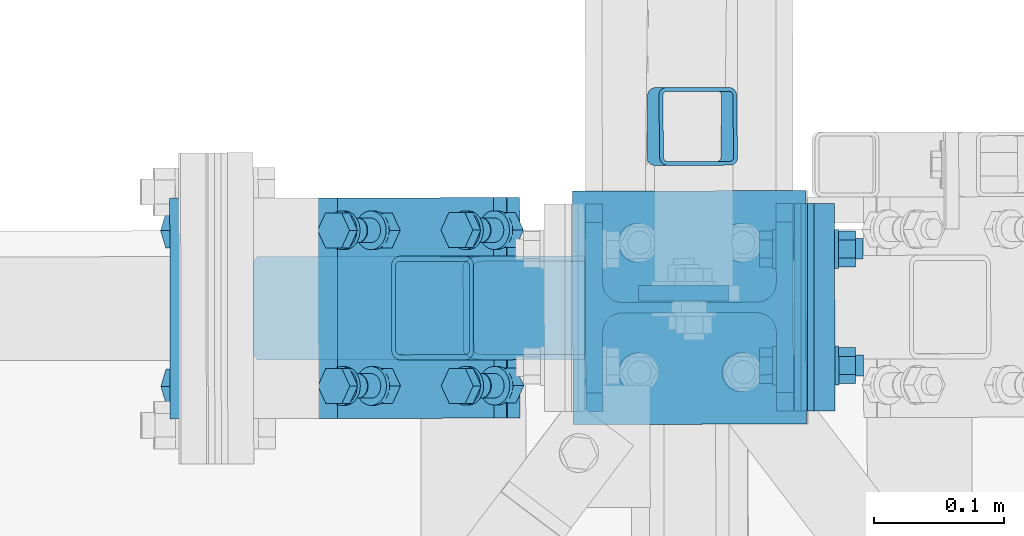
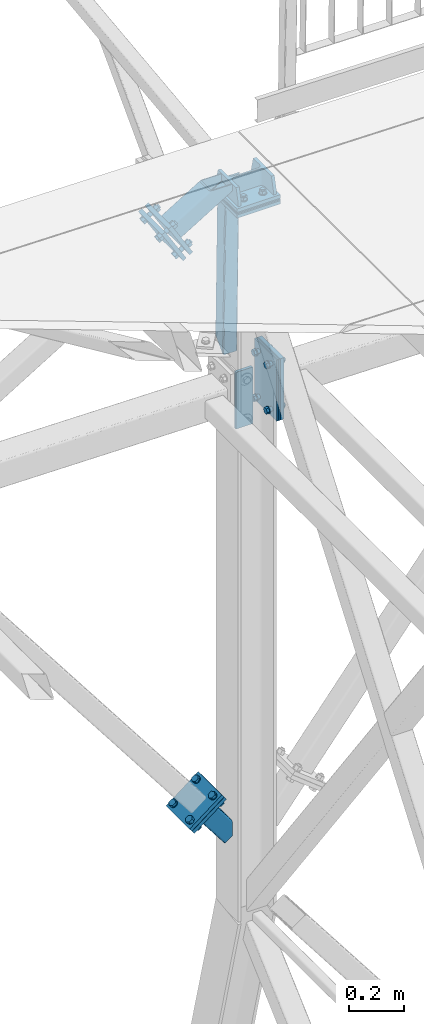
# One storey, part 106 of 169: 17 discrete accessories, 4 mechanical fasteners, 12 elements without a shape of their own.
"""IFC2X3 building model written with IfcOpenShell, lengths in millimetres."""

import ifcopenshell
import ifcopenshell.guid

model = None  # the IFC model being written
_history = None  # IfcOwnerHistory: only IFC2X3 demands one
_inside = {}  # id of a spatial element -> (the spatial element, [elements in it])
_under = {}  # id of a project, library or spatial element -> (it, [spatial elements below it])
_declared = {}  # id of a project -> (the project, [libraries it declares])
_typed = {}  # id of a type object -> (the type object, [elements of that type])
_made_of = {}  # id of a material, layer set ... -> (it, [elements and type objects made of it])


def new_model(schema):
    """Start an empty IFC model of exactly this schema.

    Asked for "IFC4X3", IfcOpenShell would pick the latest addendum, in which some entities
    have other attributes; the version numbers below select the first issue.
    IFC2X3 requires an IfcOwnerHistory on every rooted entity: one is made here for all.
    """
    global model, _history
    if schema == "IFC4X3":
        model = ifcopenshell.file(schema_version=(4, 3, 0, 0))
    else:
        model = ifcopenshell.file(schema=schema)
    _inside.clear()
    _under.clear()
    _declared.clear()
    _typed.clear()
    _made_of.clear()
    _history = None
    if model.schema == "IFC2X3":
        org = make("IfcOrganization", Name="unknown")
        user = make(
            "IfcPersonAndOrganization",
            ThePerson=make("IfcPerson", FamilyName="unknown"),
            TheOrganization=org,
        )
        app = make(
            "IfcApplication",
            ApplicationDeveloper=org,
            Version="unknown",
            ApplicationFullName="unknown",
            ApplicationIdentifier="unknown",
        )
        _history = make(
            "IfcOwnerHistory",
            OwningUser=user,
            OwningApplication=app,
            ChangeAction="ADDED",
            CreationDate=0,
        )
    return model


def make(cls, **values):
    """One entity of the class cls with the attributes given. An attribute that is None is left unset."""
    return model.create_entity(
        cls, **{name: value for name, value in values.items() if value is not None}
    )


def rooted(cls, **values):
    """An entity with a GlobalId (a new one), such as an element, a storey or a relation."""
    return make(cls, GlobalId=ifcopenshell.guid.new(), OwnerHistory=_history, **values)


def si_unit(unit_type, name, prefix=None):
    """IfcSIUnit, for example si_unit("LENGTHUNIT", "METRE", prefix="MILLI")."""
    return make("IfcSIUnit", UnitType=unit_type, Prefix=prefix, Name=name)


def assignment(units):
    """IfcUnitAssignment: the units of a project."""
    return None if units is None else make("IfcUnitAssignment", Units=units)


def point(xyz):
    """IfcCartesianPoint."""
    return None if xyz is None else make("IfcCartesianPoint", Coordinates=xyz)


def direction(xyz):
    """IfcDirection."""
    return None if xyz is None else make("IfcDirection", DirectionRatios=xyz)


def frame(location, z_axis=None, x_axis=None):
    """IfcAxis2Placement3D, a coordinate frame: its origin and axes. An axis left out is left unset."""
    return make(
        "IfcAxis2Placement3D",
        Location=point(location),
        Axis=direction(z_axis),
        RefDirection=direction(x_axis),
    )


def frame_2d(location, x_axis=None):
    """IfcAxis2Placement2D, a coordinate frame in the plane: its origin and x axis."""
    return make(
        "IfcAxis2Placement2D", Location=point(location), RefDirection=direction(x_axis)
    )


def origin_with_axes():
    """The frame at (0, 0, 0) with the z axis (0, 0, 1) and the x axis (1, 0, 0) written out."""
    return frame((0.0, 0.0, 0.0), z_axis=(0.0, 0.0, 1.0), x_axis=(1.0, 0.0, 0.0))


def origin_2d_with_axis():
    """The frame at (0, 0) in the plane with the x axis (1, 0) written out."""
    return frame_2d((0.0, 0.0), x_axis=(1.0, 0.0))


def place(relative_to, where):
    """IfcLocalPlacement: puts the frame where relative to a parent placement (None: the world)."""
    return make(
        "IfcLocalPlacement", PlacementRelTo=relative_to, RelativePlacement=where
    )


def context(
    kind, dimensions, precision=None, world=None, true_north=None, identifier=None
):
    """IfcGeometricRepresentationContext, for example the 3D "Model" context."""
    return make(
        "IfcGeometricRepresentationContext",
        ContextIdentifier=identifier,
        ContextType=kind,
        CoordinateSpaceDimension=dimensions,
        Precision=precision,
        WorldCoordinateSystem=world,
        TrueNorth=true_north,
    )


def subcontext(parent, identifier, kind, view, scale=None):
    """IfcGeometricRepresentationSubContext, for example "Body" below "Model"."""
    return make(
        "IfcGeometricRepresentationSubContext",
        ContextIdentifier=identifier,
        ContextType=kind,
        ParentContext=parent,
        TargetScale=scale,
        TargetView=view,
    )


def project(units=None, contexts=None):
    """IfcProject with its units and contexts."""
    return rooted(
        "IfcProject",
        Name="project",
        RepresentationContexts=contexts,
        UnitsInContext=assignment(units),
    )


def spatial(cls, under=None, at=None, **own):
    """A site, building, storey or space (cls), placed at a placement, below another one or the project."""
    s = rooted(cls, ObjectPlacement=at, **own)
    if under is not None:
        _under.setdefault(under.id(), (under, []))[1].append(s)
    return s


def polyline(points):
    """IfcPolyline through the points."""
    return make("IfcPolyline", Points=[point(p) for p in points])


def profile(cls, at=None, kind="AREA", **sizes):
    """A parametric profile (cls). Its sizes go by their IFC names, for example OverallWidth=200.0."""
    return make(cls, ProfileType=kind, Position=at, **sizes)


def rectangle(**sizes):
    """IfcRectangleProfileDef."""
    return profile("IfcRectangleProfileDef", **sizes)


def hollow_rectangle(**sizes):
    """IfcRectangleHollowProfileDef."""
    return profile("IfcRectangleHollowProfileDef", **sizes)


def circle(**sizes):
    """IfcCircleProfileDef."""
    return profile("IfcCircleProfileDef", **sizes)


def i_section(**sizes):
    """IfcIShapeProfileDef."""
    return profile("IfcIShapeProfileDef", **sizes)


def outline(outer, holes=None, kind="AREA"):
    """IfcArbitraryClosedProfileDef: a profile drawn as a closed curve; with holes, ...WithVoids."""
    if holes is None:
        return make("IfcArbitraryClosedProfileDef", ProfileType=kind, OuterCurve=outer)
    return make(
        "IfcArbitraryProfileDefWithVoids",
        ProfileType=kind,
        OuterCurve=outer,
        InnerCurves=holes,
    )


def extrude(swept, where, along, depth):
    """IfcExtrudedAreaSolid: the profile swept, set in the frame where, extruded along a direction by depth."""
    return make(
        "IfcExtrudedAreaSolid",
        SweptArea=swept,
        Position=where,
        ExtrudedDirection=direction(along),
        Depth=depth,
    )


def boolean(op, a, b):
    """IfcBooleanResult of two solids."""
    return make("IfcBooleanResult", Operator=op, FirstOperand=a, SecondOperand=b)


def clip(a, b, op="DIFFERENCE"):
    """IfcBooleanClippingResult: the solid a cut by the half space b."""
    return make(
        "IfcBooleanClippingResult", Operator=op, FirstOperand=a, SecondOperand=b
    )


def halfspace(plane, agree):
    """IfcHalfSpaceSolid: all space on one side of the plane z = 0 of the frame plane."""
    return make(
        "IfcHalfSpaceSolid",
        BaseSurface=make("IfcPlane", Position=plane),
        AgreementFlag=agree,
    )


def shape(context_of_items, identifier, shape_type, items):
    """IfcShapeRepresentation: the items that make up one representation, for example the "Body"."""
    return make(
        "IfcShapeRepresentation",
        ContextOfItems=context_of_items,
        RepresentationIdentifier=identifier,
        RepresentationType=shape_type,
        Items=items,
    )


def source(mapping_origin, context_of_items, identifier, shape_type, items):
    """IfcRepresentationMap: a shape defined once, which mapped items show again and again."""
    return make(
        "IfcRepresentationMap",
        MappingOrigin=mapping_origin,
        MappedRepresentation=shape(context_of_items, identifier, shape_type, items),
    )


def transform(
    local_origin,
    x_axis=None,
    y_axis=None,
    z_axis=None,
    scale=None,
    scale2=None,
    scale3=None,
    uniform=True,
):
    """IfcCartesianTransformationOperator3D, or its non-uniform kind. x_axis, y_axis, z_axis: its Axis1, 2, 3."""
    if uniform:
        return make(
            "IfcCartesianTransformationOperator3D",
            Axis1=direction(x_axis),
            Axis2=direction(y_axis),
            LocalOrigin=point(local_origin),
            Scale=scale,
            Axis3=direction(z_axis),
        )
    return make(
        "IfcCartesianTransformationOperator3DnonUniform",
        Axis1=direction(x_axis),
        Axis2=direction(y_axis),
        LocalOrigin=point(local_origin),
        Scale=scale,
        Axis3=direction(z_axis),
        Scale2=scale2,
        Scale3=scale3,
    )


def mapped(mapping_source, mapping_target):
    """IfcMappedItem: shows the shape of a source again, moved by a transform."""
    return make(
        "IfcMappedItem", MappingSource=mapping_source, MappingTarget=mapping_target
    )


def material(Name=None, Category=None):
    """IfcMaterial."""
    return make("IfcMaterial", Name=Name, Category=Category)


def made_of(thing, what):
    """Note that an element or type object is made of a material, layer set ...; save() writes the relation."""
    if what is not None:
        _made_of.setdefault(what.id(), (what, []))[1].append(thing)
    return thing


def type_object(cls, material=None, **own):
    """A type object (cls), such as IfcWallType, which elements share."""
    return made_of(rooted(cls, **own), material)


def element(
    cls,
    number,
    at=None,
    inside=None,
    cuts=None,
    type_object=None,
    material=None,
    context=None,
    identifier="Body",
    shape_type=None,
    held_by="IfcProductDefinitionShape",
    body=None,
    shapes=None,
    **own,
):
    """One element of the class cls, such as IfcWall. Its Tag is "e" and its number.

    at: its placement. inside: the storey or other place that contains it. cuts: it is an
    opening in that element (IfcRelVoidsElement). A single representation is given by context,
    identifier, shape_type and body (its items); several are given by shapes. held_by: the class
    of the entity that holds the representations. save() writes the other relations.
    """
    e = rooted(cls, Tag="e%d" % number, ObjectPlacement=at, **own)
    if body is not None:
        shapes = [shape(context, identifier, shape_type, body)]
    if shapes is not None:
        e.Representation = make(held_by, Representations=shapes)
    if inside is not None:
        _inside.setdefault(inside.id(), (inside, []))[1].append(e)
    if cuts is not None:
        rooted(
            "IfcRelVoidsElement", RelatingBuildingElement=cuts, RelatedOpeningElement=e
        )
    if type_object is not None:
        _typed.setdefault(type_object.id(), (type_object, []))[1].append(e)
    return made_of(e, material)


def aggregate(whole, parts):
    """IfcRelAggregates: a whole, such as a stair, and the parts it consists of."""
    return rooted("IfcRelAggregates", RelatingObject=whole, RelatedObjects=parts)


def save(model, path):
    """Write the relations noted so far, then the file.

    IfcRelAggregates (storeys below a building ...), IfcRelContainedInSpatialStructure (elements
    in a storey), IfcRelDefinesByType, IfcRelAssociatesMaterial and IfcRelDeclares: one each for
    every whole, place, type object, material and project.
    """
    for whole, parts in _under.values():
        aggregate(whole, parts)
    for where, things in _inside.values():
        rooted(
            "IfcRelContainedInSpatialStructure",
            RelatedElements=things,
            RelatingStructure=where,
        )
    for kind, things in _typed.values():
        rooted("IfcRelDefinesByType", RelatedObjects=things, RelatingType=kind)
    for what, things in _made_of.values():
        rooted("IfcRelAssociatesMaterial", RelatedObjects=things, RelatingMaterial=what)
    for by, libraries in _declared.values():
        rooted("IfcRelDeclares", RelatingContext=by, RelatedDefinitions=libraries)
    model.write(path)


model = new_model("IFC2X3")

# Units and contexts
model_context = context("Model", 3, precision=1e-05, world=origin_with_axes())
body_context = subcontext(model_context, "Body", "Model", "MODEL_VIEW")
ifc_project = project(units=[si_unit("LENGTHUNIT", "METRE", prefix="MILLI"), si_unit("AREAUNIT", "SQUARE_METRE"), si_unit("VOLUMEUNIT", "CUBIC_METRE"), si_unit("MASSUNIT", "GRAM", prefix="KILO"), si_unit("TIMEUNIT", "SECOND"), si_unit("PLANEANGLEUNIT", "RADIAN"), si_unit("SOLIDANGLEUNIT", "STERADIAN"), si_unit("THERMODYNAMICTEMPERATUREUNIT", "DEGREE_CELSIUS"), si_unit("LUMINOUSINTENSITYUNIT", "LUMEN")], contexts=[model_context])

# Site, building, storey
site_placement = place(None, origin_with_axes())
site = spatial("IfcSite", under=ifc_project, at=site_placement, Name="Undefined", CompositionType="ELEMENT")
building_placement = place(site_placement, origin_with_axes())
building = spatial("IfcBuilding", under=site, at=building_placement, Name="Undefined", CompositionType="ELEMENT")
storey_placement = place(building_placement, origin_with_axes())
storey = spatial("IfcBuildingStorey", under=building, at=storey_placement, Name="Undefined", CompositionType="ELEMENT", Elevation=0.0)

# Assembly, discrete accessory
assembly_1_placement = place(storey_placement, origin_with_axes())
assembly_1 = element("IfcElementAssembly", 1, at=assembly_1_placement, inside=storey, Name="Steel Assembly", AssemblyPlace="NOTDEFINED", PredefinedType="RIGID_FRAME")
ifc_material_1 = material(Name="STEEL/S355")
discrete_accessory_type_1 = type_object("IfcDiscreteAccessoryType", Name="BLACHA")
discrete_accessory_1_placement = place(assembly_1_placement, frame((6114.91558262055, 2267.42133492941, 12945.9381851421), z_axis=(-0.0018648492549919, 0.999998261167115, -4.2996762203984e-08), x_axis=(-2.54700353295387e-10, 0.0, -1.0)))
discrete_accessory_1 = element("IfcDiscreteAccessory", 2, at=discrete_accessory_1_placement, type_object=discrete_accessory_type_1, material=ifc_material_1, Name="BLACHA", ObjectType="BL12*70", context=body_context, shape_type="SweptSolid", body=[
    extrude(outline(polyline([(250.000000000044, 34.9999999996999), (249.999999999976, -35.0000000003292), (-3.45607986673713e-11, -35.0000000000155), (3.27418092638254e-11, 35.0000000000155), (250.000000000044, 34.9999999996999)])), frame((-1.81898942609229e-12, -1.81898940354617e-12, -5.99999999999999), z_axis=(0.0, 0.0, 1.0), x_axis=(1.0, 0.0, 0.0)), (0.0, 0.0, 1.0), 12.0),
])

assembly_2_placement = place(storey_placement, origin_with_axes())
assembly_2 = element("IfcElementAssembly", 3, at=assembly_2_placement, inside=storey, Name="Steel Assembly", AssemblyPlace="NOTDEFINED", PredefinedType="RIGID_FRAME")
discrete_accessory_2_placement = place(assembly_2_placement, frame((6209.2309636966, 2256.59861700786, 13733.2664487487), z_axis=(0.0, 0.0, 1.0), x_axis=(-0.99999826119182, -0.00186483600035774, -1.66000011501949e-07)))
discrete_accessory_2 = element("IfcDiscreteAccessory", 4, at=discrete_accessory_2_placement, type_object=discrete_accessory_type_1, material=ifc_material_1, Name="BLACHA", ObjectType="BL15*180", context=body_context, shape_type="SweptSolid", body=[
    extrude(outline(polyline([(179.999999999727, -90.0000000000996), (6.18456397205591e-11, -90.0), (-6.3664629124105e-11, 90.0000000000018), (179.999999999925, 89.9999999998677), (179.999999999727, -90.0000000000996)])), frame((0.0, -1.24077091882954e-23, -7.49999999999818), z_axis=(0.0, 0.0, 1.0), x_axis=(1.0, 0.0, 0.0)), (0.0, 0.0, 1.0), 15.0),
])

assembly_3_placement = place(storey_placement, origin_with_axes())
assembly_3 = element("IfcElementAssembly", 5, at=assembly_3_placement, inside=storey, Name="Steel Assembly", AssemblyPlace="NOTDEFINED", PredefinedType="RIGID_FRAME")
discrete_accessory_3_placement = place(assembly_3_placement, frame((6209.2944123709, 2256.59730547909, 13707.2664487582), z_axis=(0.0, 0.0, 1.0), x_axis=(-0.99999826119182, -0.00186483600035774, -1.66000011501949e-07)))
discrete_accessory_3 = element("IfcDiscreteAccessory", 6, at=discrete_accessory_3_placement, type_object=discrete_accessory_type_1, material=ifc_material_1, Name="BLACHA", ObjectType="BL15*180", context=body_context, shape_type="SweptSolid", body=[
    extrude(outline(polyline([(179.999999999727, -90.0000000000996), (6.18456397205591e-11, -90.0), (-6.3664629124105e-11, 90.0000000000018), (179.999999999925, 89.9999999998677), (179.999999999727, -90.0000000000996)])), frame((0.0, -1.24077091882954e-23, -7.49999999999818), z_axis=(0.0, 0.0, 1.0), x_axis=(1.0, 0.0, 0.0)), (0.0, 0.0, 1.0), 15.0),
])
aggregate(assembly_3, [discrete_accessory_3])

assembly_4_placement = place(storey_placement, origin_with_axes())
assembly_4 = element("IfcElementAssembly", 7, at=assembly_4_placement, inside=storey, Name="Steel Assembly", AssemblyPlace="NOTDEFINED", PredefinedType="RIGID_FRAME")
discrete_accessory_4_placement = place(assembly_4_placement, frame((6209.23096611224, 2256.59861720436, 13717.2664487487), z_axis=(0.0, 0.0, 1.0), x_axis=(-0.99999826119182, -0.00186483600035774, -1.66000011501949e-07)))
discrete_accessory_4 = element("IfcDiscreteAccessory", 8, at=discrete_accessory_4_placement, type_object=discrete_accessory_type_1, material=ifc_material_1, Name="BLACHA", ObjectType="BL5*180", context=body_context, shape_type="SweptSolid", body=[
    extrude(outline(polyline([(179.999999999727, -90.0000000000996), (6.18456397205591e-11, -90.0), (-6.3664629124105e-11, 90.0000000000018), (179.999999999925, 89.9999999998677), (179.999999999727, -90.0000000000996)])), frame((6.80888809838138e-19, -2.87858853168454e-21, -2.49999999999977), z_axis=(0.0, 0.0, 1.0), x_axis=(1.0, 0.0, 0.0)), (0.0, 0.0, 1.0), 5.0),
])
aggregate(assembly_4, [discrete_accessory_4])

assembly_5_placement = place(storey_placement, origin_with_axes())
assembly_5 = element("IfcElementAssembly", 9, at=assembly_5_placement, inside=storey, Name="Steel Assembly", AssemblyPlace="NOTDEFINED", PredefinedType="RIGID_FRAME")
discrete_accessory_5_placement = place(assembly_5_placement, frame((6209.23096535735, 2256.59861714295, 13722.2664487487), z_axis=(0.0, 0.0, 1.0), x_axis=(-0.99999826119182, -0.00186483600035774, -1.66000011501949e-07)))
discrete_accessory_5 = element("IfcDiscreteAccessory", 10, at=discrete_accessory_5_placement, type_object=discrete_accessory_type_1, material=ifc_material_1, Name="BLACHA", ObjectType="BL5*180", context=body_context, shape_type="SweptSolid", body=[
    extrude(outline(polyline([(179.999999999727, -90.0000000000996), (6.18456397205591e-11, -90.0), (-6.3664629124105e-11, 90.0000000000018), (179.999999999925, 89.9999999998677), (179.999999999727, -90.0000000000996)])), frame((6.80888809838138e-19, -2.87858853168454e-21, -2.49999999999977), z_axis=(0.0, 0.0, 1.0), x_axis=(1.0, 0.0, 0.0)), (0.0, 0.0, 1.0), 5.0),
])
aggregate(assembly_5, [discrete_accessory_5])

assembly_6_placement = place(storey_placement, origin_with_axes())
assembly_6 = element("IfcElementAssembly", 11, at=assembly_6_placement, inside=storey, Name="Steel Assembly", AssemblyPlace="NOTDEFINED", PredefinedType="RIGID_FRAME")
discrete_accessory_6_placement = place(assembly_6_placement, frame((6202.6452661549, 2336.58508302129, 12874.9150526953), z_axis=(0.99999826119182, 0.0018648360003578, 1.65999988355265e-07), x_axis=(0.00186484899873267, -0.999998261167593, 4.28757666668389e-08)))
discrete_accessory_6 = element("IfcDiscreteAccessory", 12, at=discrete_accessory_6_placement, type_object=discrete_accessory_type_1, material=ifc_material_1, Name="BLACHA", ObjectType="BL5*270", context=body_context, shape_type="SweptSolid", body=[
    extrude(outline(polyline([(1.22781784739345e-10, 135.000000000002), (159.999999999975, 134.999999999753), (159.99999999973, -135.000000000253), (-1.23236532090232e-10, -135.000000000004), (1.22781784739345e-10, 135.000000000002)])), frame((6.80888809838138e-19, -2.87858853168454e-21, -2.49999999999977), z_axis=(0.0, 0.0, 1.0), x_axis=(1.0, 0.0, 0.0)), (0.0, 0.0, 1.0), 5.0),
])
aggregate(assembly_6, [discrete_accessory_6])

assembly_7_placement = place(storey_placement, origin_with_axes())
assembly_7 = element("IfcElementAssembly", 13, at=assembly_7_placement, inside=storey, Name="Steel Assembly", AssemblyPlace="NOTDEFINED", PredefinedType="RIGID_FRAME")
discrete_accessory_7_placement = place(assembly_7_placement, frame((6207.64525746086, 2336.59440720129, 12874.9150535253), z_axis=(0.99999826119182, 0.0018648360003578, 1.65999988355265e-07), x_axis=(0.00186484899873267, -0.999998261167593, 4.28757666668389e-08)))
discrete_accessory_7 = element("IfcDiscreteAccessory", 14, at=discrete_accessory_7_placement, type_object=discrete_accessory_type_1, material=ifc_material_1, Name="BLACHA", ObjectType="BL5*270", context=body_context, shape_type="SweptSolid", body=[
    extrude(outline(polyline([(1.22781784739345e-10, 135.000000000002), (159.999999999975, 134.999999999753), (159.99999999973, -135.000000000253), (-1.23236532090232e-10, -135.000000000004), (1.22781784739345e-10, 135.000000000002)])), frame((6.80888809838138e-19, -2.87858853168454e-21, -2.49999999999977), z_axis=(0.0, 0.0, 1.0), x_axis=(1.0, 0.0, 0.0)), (0.0, 0.0, 1.0), 5.0),
])
aggregate(assembly_7, [discrete_accessory_7])

assembly_8_placement = place(storey_placement, origin_with_axes())
assembly_8 = element("IfcElementAssembly", 15, at=assembly_8_placement, inside=storey, Name="Steel Assembly", AssemblyPlace="NOTDEFINED", PredefinedType="RIGID_FRAME")
discrete_accessory_8_placement = place(assembly_8_placement, frame((6212.64524876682, 2336.60373138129, 12874.9150543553), z_axis=(0.99999826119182, 0.0018648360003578, 1.65999988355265e-07), x_axis=(0.00186484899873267, -0.999998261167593, 4.28757666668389e-08)))
discrete_accessory_8 = element("IfcDiscreteAccessory", 16, at=discrete_accessory_8_placement, type_object=discrete_accessory_type_1, material=ifc_material_1, Name="BLACHA", ObjectType="BL5*270", context=body_context, shape_type="SweptSolid", body=[
    extrude(outline(polyline([(1.22781784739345e-10, 135.000000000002), (159.999999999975, 134.999999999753), (159.99999999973, -135.000000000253), (-1.23236532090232e-10, -135.000000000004), (1.22781784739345e-10, 135.000000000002)])), frame((6.80888809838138e-19, -2.87858853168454e-21, -2.49999999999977), z_axis=(0.0, 0.0, 1.0), x_axis=(1.0, 0.0, 0.0)), (0.0, 0.0, 1.0), 5.0),
])
aggregate(assembly_8, [discrete_accessory_8])

# Discrete accessory
discrete_accessory_9_placement = place(assembly_2_placement, frame((6223.14523050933, 2336.62331215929, 12874.9150560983), z_axis=(0.99999826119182, 0.0018648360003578, 1.65999988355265e-07), x_axis=(0.00186484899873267, -0.999998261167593, 4.28757666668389e-08)))
discrete_accessory_9 = element("IfcDiscreteAccessory", 17, at=discrete_accessory_9_placement, type_object=discrete_accessory_type_1, material=ifc_material_1, Name="BLACHA", ObjectType="BL16*270", context=body_context, shape_type="SweptSolid", body=[
    extrude(outline(polyline([(1.22781784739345e-10, 135.000000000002), (159.999999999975, 134.999999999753), (159.99999999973, -135.000000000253), (-1.23236532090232e-10, -135.000000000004), (1.22781784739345e-10, 135.000000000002)])), frame((4.54778590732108e-13, 0.0, -8.0), z_axis=(0.0, 0.0, 1.0), x_axis=(1.0, 0.0, 0.0)), (0.0, 0.0, 1.0), 16.0),
])

# Assembly, discrete accessory
assembly_9_placement = place(storey_placement, origin_with_axes())
assembly_9 = element("IfcElementAssembly", 18, at=assembly_9_placement, inside=storey, Name="Steel Assembly", AssemblyPlace="NOTDEFINED", PredefinedType="RIGID_FRAME")
discrete_accessory_10_placement = place(assembly_9_placement, frame((5983.68968567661, 2256.17656042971, 11159.8752406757), z_axis=(-0.0018648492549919, 0.999998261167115, -4.2996762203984e-08), x_axis=(-0.792353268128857, -0.00147761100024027, -0.610060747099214)))
discrete_accessory_10 = element("IfcDiscreteAccessory", 19, at=discrete_accessory_10_placement, type_object=discrete_accessory_type_1, material=ifc_material_1, Name="BLACHA", ObjectType="BL16*170", context=body_context, shape_type="SweptSolid", body=[
    extrude(rectangle(XDim=16.0, YDim=170.0, at=origin_2d_with_axis()), frame((169.999999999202, 0.0, -3.62691994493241e-12), z_axis=(-1.0, -3.46944695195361e-18, -1.38777878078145e-17), x_axis=(1.73472347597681e-18, -1.0, 0.0)), (0.0, 0.0, 1.0), 170.0),
])

assembly_10_placement = place(storey_placement, origin_with_axes())
assembly_10 = element("IfcElementAssembly", 20, at=assembly_10_placement, inside=storey, Name="Steel Assembly", AssemblyPlace="NOTDEFINED", PredefinedType="RIGID_FRAME")
discrete_accessory_11_placement = place(assembly_10_placement, frame((5973.31867107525, 2256.15722007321, 11173.3452697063), z_axis=(-0.0018648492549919, 0.999998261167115, -4.2996762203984e-08), x_axis=(-0.792353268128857, -0.00147761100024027, -0.610060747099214)))
discrete_accessory_11 = element("IfcDiscreteAccessory", 21, at=discrete_accessory_11_placement, type_object=discrete_accessory_type_1, material=ifc_material_1, Name="BLACHA", ObjectType="BL16*170", context=body_context, shape_type="SweptSolid", body=[
    extrude(rectangle(XDim=16.0, YDim=170.0, at=origin_2d_with_axis()), frame((169.999999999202, 0.0, -3.62691994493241e-12), z_axis=(-1.0, -3.46944695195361e-18, -1.38777878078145e-17), x_axis=(1.73472347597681e-18, -1.0, 0.0)), (0.0, 0.0, 1.0), 170.0),
])
aggregate(assembly_10, [discrete_accessory_11])

assembly_11_placement = place(storey_placement, origin_with_axes())
assembly_11 = element("IfcElementAssembly", 22, at=assembly_11_placement, inside=storey, Name="Steel Assembly", AssemblyPlace="NOTDEFINED", PredefinedType="RIGID_FRAME")
discrete_accessory_12_placement = place(assembly_11_placement, frame((5752.9087707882, 2255.74628936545, 13753.7537495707), z_axis=(-0.0018648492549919, 0.999998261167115, -4.2996762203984e-08), x_axis=(0.518820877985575, 0.000967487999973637, -0.854882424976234)))
discrete_accessory_12 = element("IfcDiscreteAccessory", 23, at=discrete_accessory_12_placement, type_object=discrete_accessory_type_1, material=ifc_material_1, Name="BLACHA", ObjectType="BL16*170", context=body_context, shape_type="SweptSolid", body=[
    extrude(rectangle(XDim=16.0, YDim=170.0, at=origin_2d_with_axis()), frame((169.999999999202, 0.0, -3.62691994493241e-12), z_axis=(-1.0, -3.46944695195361e-18, -1.38777878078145e-17), x_axis=(1.73472347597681e-18, -1.0, 0.0)), (0.0, 0.0, 1.0), 170.0),
])

assembly_12_placement = place(storey_placement, origin_with_axes())
assembly_12 = element("IfcElementAssembly", 24, at=assembly_12_placement, inside=storey, Name="Steel Assembly", AssemblyPlace="NOTDEFINED", PredefinedType="RIGID_FRAME")
discrete_accessory_13_placement = place(assembly_12_placement, frame((5725.55258077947, 2255.69527316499, 13737.151452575), z_axis=(-0.0018648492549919, 0.999998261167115, -4.2996762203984e-08), x_axis=(0.518820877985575, 0.000967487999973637, -0.854882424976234)))
discrete_accessory_13 = element("IfcDiscreteAccessory", 25, at=discrete_accessory_13_placement, type_object=discrete_accessory_type_1, material=ifc_material_1, Name="BLACHA", ObjectType="BL16*170", context=body_context, shape_type="SweptSolid", body=[
    extrude(rectangle(XDim=16.0, YDim=170.0, at=origin_2d_with_axis()), frame((169.999999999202, 0.0, -3.62691994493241e-12), z_axis=(-1.0, -3.46944695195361e-18, -1.38777878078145e-17), x_axis=(1.73472347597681e-18, -1.0, 0.0)), (0.0, 0.0, 1.0), 170.0),
])
aggregate(assembly_12, [discrete_accessory_13])

# Discrete accessory
discrete_accessory_type_2 = type_object("IfcDiscreteAccessoryType", Name="BEAM")
discrete_accessory_14_placement = place(assembly_1_placement, frame((6126.35692894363, 2396.09190308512, 13739.6272537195), z_axis=(-0.0018648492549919, 0.999998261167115, -4.2996762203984e-08), x_axis=(-0.012713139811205, -2.37511238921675e-05, -0.999919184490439)))
discrete_accessory_14 = element("IfcDiscreteAccessory", 26, at=discrete_accessory_14_placement, type_object=discrete_accessory_type_2, material=ifc_material_1, Name="BEAM", ObjectType="SHS60*3", context=body_context, shape_type="Clipping", body=[
    clip(clip(extrude(hollow_rectangle(XDim=60.0, YDim=60.0, WallThickness=3.0, InnerFilletRadius=3.0, OuterFilletRadius=6.0, at=origin_2d_with_axis()), frame((812.522108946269, 9.09494701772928e-13, -7.10957187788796e-15), z_axis=(-1.0, -3.46944695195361e-18, -1.38777878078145e-17), x_axis=(1.73472347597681e-18, -1.0, 0.0)), (0.0, 0.0, 1.0), 844.63), halfspace(frame((67.8628013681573, 2.04154366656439e-06, 685.893546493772), z_axis=(-0.707106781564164, -2.34576254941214e-10, -0.707106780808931), x_axis=(1.73472347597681e-18, -1.0, 0.0)), True)), halfspace(frame((53.3139673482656, -3.32958734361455e-06, 30.0000033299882), z_axis=(-0.747529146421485, -7.40198753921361e-08, 0.664229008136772), x_axis=(1.73472347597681e-18, -1.0, 0.0)), False)),
])

aggregate(assembly_1, [discrete_accessory_1, discrete_accessory_14])

discrete_accessory_15_placement = place(assembly_2_placement, frame((6119.23110831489, 2256.42976555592, 13816.4156113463), z_axis=(-0.99999826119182, -0.00186483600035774, -1.66000011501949e-07), x_axis=(1.42000003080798e-07, 1.34320000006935e-05, -0.999999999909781)))
discrete_accessory_15 = element("IfcDiscreteAccessory", 27, at=discrete_accessory_15_placement, type_object=discrete_accessory_type_2, material=ifc_material_1, Name="BEAM", ObjectType="HEB160", context=body_context, shape_type="CSG", body=[
    boolean("DIFFERENCE", boolean("DIFFERENCE", boolean("DIFFERENCE", boolean("DIFFERENCE", extrude(i_section(OverallWidth=160.0, OverallDepth=160.0, WebThickness=8.0, FlangeThickness=13.0, FilletRadius=15.0, at=origin_2d_with_axis()), frame((75.6491761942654, 0.0, -4.00483404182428e-21), z_axis=(-1.0, -3.46944695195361e-18, -1.38777878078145e-17), x_axis=(1.73472347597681e-18, -1.0, 0.0)), (0.0, 0.0, 1.0), 75.65), extrude(outline(polyline([(0.0, 0.0), (15.0, 0.0), (0.000196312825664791, 60.0001487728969), (0.0, 0.0)])), frame((-2.35937044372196, -80.0000028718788, 83.0005627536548), z_axis=(-2.54700353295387e-10, 0.0, -1.0), x_axis=(-3.59471185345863e-06, 0.999999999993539, 1.6213224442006e-12)), (0.0, 0.0, 1.0), 166.0)), extrude(outline(polyline([(0.0, 0.0), (15.0, 0.0), (5.3567816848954e-11, 59.9999999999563), (0.0, 0.0)])), frame((-2.36152618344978, 79.9995850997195, -82.9994367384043), z_axis=(0.0, 0.0, 1.0), x_axis=(1.35297118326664e-05, -0.999999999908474, 4.71781138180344e-14)), (0.0, 0.0, 1.0), 166.0)), halfspace(frame((75.6491774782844, -3.63797880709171e-11, -79.99999999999), z_axis=(-0.999999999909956, -1.34197118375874e-05, -1.60482272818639e-08), x_axis=(-1.34197118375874e-05, 0.999999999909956, 1.8189894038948e-15)), True)), halfspace(frame((-12.7232466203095, 0.000805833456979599, 1000.68198215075), z_axis=(0.999919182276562, 1.34308004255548e-05, 0.0127133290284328), x_axis=(-1.34197118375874e-05, 0.999999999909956, 1.8189894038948e-15)), True)),
])

discrete_accessory_16_placement = place(assembly_9_placement, frame((6119.29644221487, 2256.42944518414, 10844.4167696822), z_axis=(-0.792353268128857, -0.00147761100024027, -0.610060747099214), x_axis=(-0.610059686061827, -0.00113766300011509, 0.792354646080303)))
discrete_accessory_16 = element("IfcDiscreteAccessory", 28, at=discrete_accessory_16_placement, type_object=discrete_accessory_type_2, material=ifc_material_1, Name="BEAM", ObjectType="K80/4", context=body_context, shape_type="Clipping", body=[
    clip(clip(extrude(hollow_rectangle(XDim=80.0, YDim=80.0, WallThickness=4.0, InnerFilletRadius=4.0, OuterFilletRadius=8.0, at=origin_2d_with_axis()), frame((324.68348812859, -2.90766667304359e-17, -1.80235542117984e-14), z_axis=(-1.0, -3.46944695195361e-18, -1.38777878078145e-17), x_axis=(1.73472347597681e-18, -1.0, 0.0)), (0.0, 0.0, 1.0), 193.55), halfspace(frame((324.683488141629, -1.47718992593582e-06, -39.9999999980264), z_axis=(-1.0, -3.46944695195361e-18, -1.38777878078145e-17), x_axis=(0.0, 1.0, 0.0)), True)), halfspace(frame((841.162066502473, -2.02643773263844e-05, -546.672235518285), z_axis=(0.610060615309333, 2.87976546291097e-08, 0.792354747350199), x_axis=(1.73472347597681e-18, -1.0, 0.0)), True)),
])

discrete_accessory_17_placement = place(assembly_11_placement, frame((6118.87121880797, 2256.42876059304, 13876.4251435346), z_axis=(0.518820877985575, 0.000967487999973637, -0.854882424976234), x_axis=(-0.854880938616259, -0.00159424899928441, -0.51882177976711)))
discrete_accessory_17 = element("IfcDiscreteAccessory", 29, at=discrete_accessory_17_placement, type_object=discrete_accessory_type_2, material=ifc_material_1, Name="BEAM", ObjectType="K80/4", context=body_context, shape_type="CSG", body=[
    boolean("DIFFERENCE", boolean("DIFFERENCE", boolean("DIFFERENCE", boolean("DIFFERENCE", extrude(hollow_rectangle(XDim=80.0, YDim=80.0, WallThickness=4.0, InnerFilletRadius=4.0, OuterFilletRadius=8.0, at=origin_2d_with_axis()), frame((368.500000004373, -4.54824966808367e-13, -4.09117184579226e-14), z_axis=(-1.0, -3.46944695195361e-18, -1.38777878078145e-17), x_axis=(1.73472347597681e-18, -1.0, 0.0)), (0.0, 0.0, 1.0), 368.5), extrude(rectangle(XDim=122.0, YDim=122.0, at=origin_2d_with_axis()), frame((-1697.20335021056, -0.000101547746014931, 1059.77589935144), z_axis=(0.848217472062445, 4.64185049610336e-11, -0.529648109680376), x_axis=(-0.529648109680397, 3.67469012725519e-10, -0.848217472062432)), (0.0, 0.0, 1.0), 4001.81)), extrude(outline(polyline([(0.0, 0.0), (92.1665497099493, -7.09405867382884e-11), (92.1665497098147, 79.9999999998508), (1.40171323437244e-08, 80.0000000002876), (0.0, 0.0)])), frame((147.36223795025, -43.0000008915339, 87.3850990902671), z_axis=(0.0, 1.0, 0.0), x_axis=(-0.518821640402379, -5.43120306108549e-08, -0.854882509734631)), (0.0, 0.0, 1.0), 86.0)), extrude(rectangle(XDim=82.0, YDim=82.0, at=origin_2d_with_axis()), frame((-889.388608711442, 4.77326496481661e-07, 1809.65544152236), z_axis=(0.441085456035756, -2.30656564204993e-10, -0.897465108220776), x_axis=(1.73472347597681e-18, -1.0, 0.0)), (0.0, 0.0, 1.0), 4032.82)), halfspace(frame((368.500000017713, 1.07320374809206e-10, -39.9999999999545), z_axis=(-1.0, -3.46944695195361e-18, -1.38777878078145e-17), x_axis=(0.0, 1.0, 0.0)), True)),
])

# Mechanical fastener
ifc_material_2 = material(Name="Undefined")
discrete_accessory_type_3 = type_object("IfcDiscreteAccessoryType", Name="Bolt assembly")
shared_shape_1 = source(origin_with_axes(), body_context, "Body", "SweptSolid", [
    extrude(circle(Radius=9.5, at=origin_2d_with_axis()), frame((0.0, -23.9000000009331, 0.0), z_axis=(0.0, 1.0, 0.0), x_axis=(1.0, 0.0, 0.0)), (0.0, 0.0, 1.0), 16.0),
    extrude(circle(Radius=9.5, at=origin_2d_with_axis()), frame((0.0, 7.89999997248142, 0.0), z_axis=(0.0, 1.0, 0.0), x_axis=(1.0, 0.0, 0.0)), (0.0, 0.0, 1.0), 16.1),
    extrude(circle(Radius=9.5, at=origin_2d_with_axis()), frame((0.0, 1.99999997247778, 0.0), z_axis=(0.0, 1.0, 0.0), x_axis=(1.0, 0.0, 0.0)), (0.0, 0.0, 1.0), 5.0),
    extrude(circle(Radius=9.5, at=origin_2d_with_axis()), frame((0.0, -3.00000607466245, 0.0), z_axis=(0.0, 1.0, 0.0), x_axis=(1.0, 0.0, 0.0)), (0.0, 0.0, 1.0), 5.0),
    extrude(circle(Radius=9.5, at=origin_2d_with_axis()), frame((0.0, -8.00000000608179, 0.0), z_axis=(0.0, 1.0, 0.0), x_axis=(1.0, 0.0, 0.0)), (0.0, 0.0, 1.0), 5.0),
    extrude(outline(polyline([(15.58845726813, 0.0), (7.794228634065, 13.5000000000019), (-7.794228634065, 13.5000000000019), (-15.58845726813, 0.0), (-7.794228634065, -13.5000000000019), (7.794228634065, -13.5000000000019), (15.58845726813, 0.0)])), frame((0.0, -38.0000000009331, 0.0), z_axis=(0.0, 1.0, 0.0), x_axis=(1.0, 0.0, 0.0)), (0.0, 0.0, 1.0), 10.0),
    extrude(circle(Radius=8.0, at=origin_2d_with_axis()), frame((0.0, -28.0000000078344, 0.0), z_axis=(0.0, 1.0, 0.0), x_axis=(1.0, 0.0, 0.0)), (0.0, 0.0, 1.0), 75.0),
    extrude(circle(Radius=15.0, at=origin_2d_with_axis()), frame((0.0, -28.0000000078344, 0.0), z_axis=(0.0, 1.0, 0.0), x_axis=(1.0, 0.0, 0.0)), (0.0, 0.0, 1.0), 4.0),
    extrude(circle(Radius=15.0, at=origin_2d_with_axis()), frame((0.0, 24.0000000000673, 0.0), z_axis=(0.0, 1.0, 0.0), x_axis=(1.0, 0.0, 0.0)), (0.0, 0.0, 1.0), 4.0),
    extrude(outline(polyline([(15.58845726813, 0.0), (7.794228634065, 13.5000000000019), (-7.794228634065, 13.5000000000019), (-15.58845726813, 0.0), (-7.794228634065, -13.5000000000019), (7.794228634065, -13.5000000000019), (15.58845726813, 0.0)])), frame((0.0, 27.9999999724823, 0.0), z_axis=(0.0, 1.0, 0.0), x_axis=(1.0, 0.0, 0.0)), (0.0, 0.0, 1.0), 13.0),
])
mechanical_fastener_1_placement = place(assembly_11_placement, frame((5804.08328552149, 2255.84171738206, 13638.592297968), z_axis=(-0.0018648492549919, 0.999998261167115, -4.2996762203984e-08), x_axis=(-0.518820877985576, -0.000967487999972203, 0.854882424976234)))
mechanical_fastener_1 = element("IfcMechanicalFastener", 30, at=mechanical_fastener_1_placement, type_object=discrete_accessory_type_3, material=ifc_material_2, Name="Bolt assembly", NominalDiameter=16.0, NominalLength=75.0, context=body_context, shape_type="MappedRepresentation", body=[
    mapped(shared_shape_1, transform((-20.0000000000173, 3.45607986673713e-11, -60.0000000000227))),
    mapped(shared_shape_1, transform((-19.9999999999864, -5.45696821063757e-12, 59.9999999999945))),
    mapped(shared_shape_1, transform((99.9999999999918, -5.82076609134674e-11, -59.9999999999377))),
    mapped(shared_shape_1, transform((100.000000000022, -9.64064383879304e-11, 60.00000000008))),
])

aggregate(assembly_11, [mechanical_fastener_1, discrete_accessory_12, discrete_accessory_17])

shared_shape_2 = source(origin_with_axes(), body_context, "Body", "SweptSolid", [
    extrude(circle(Radius=9.5, at=origin_2d_with_axis()), frame((0.0, -20.4000000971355, 0.0), z_axis=(0.0, 1.0, 0.0), x_axis=(1.0, 0.0, 0.0)), (0.0, 0.0, 1.0), 15.0),
    extrude(circle(Radius=9.5, at=origin_2d_with_axis()), frame((0.0, 5.40000000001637, 0.0), z_axis=(0.0, 1.0, 0.0), x_axis=(1.0, 0.0, 0.0)), (0.0, 0.0, 1.0), 15.1),
    extrude(circle(Radius=9.5, at=origin_2d_with_axis()), frame((0.0, -0.499999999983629, 0.0), z_axis=(0.0, 1.0, 0.0), x_axis=(1.0, 0.0, 0.0)), (0.0, 0.0, 1.0), 5.0),
    extrude(circle(Radius=9.5, at=origin_2d_with_axis()), frame((0.0, -5.49999999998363, 0.0), z_axis=(0.0, 1.0, 0.0), x_axis=(1.0, 0.0, 0.0)), (0.0, 0.0, 1.0), 5.0),
    extrude(outline(polyline([(13.85640646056, 0.0), (6.92820323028, 12.0000000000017), (-6.92820323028, 12.0000000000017), (-13.85640646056, 0.0), (-6.92820323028, -12.0000000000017), (6.92820323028, -12.0000000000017), (13.85640646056, 0.0)])), frame((0.0, -33.5000000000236, 0.0), z_axis=(0.0, 1.0, 0.0), x_axis=(1.0, 0.0, 0.0)), (0.0, 0.0, 1.0), 10.0),
    extrude(circle(Radius=8.0, at=origin_2d_with_axis()), frame((0.0, -23.5000000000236, 0.0), z_axis=(0.0, 1.0, 0.0), x_axis=(1.0, 0.0, 0.0)), (0.0, 0.0, 1.0), 65.0),
    extrude(circle(Radius=15.0, at=origin_2d_with_axis()), frame((0.0, -23.5000000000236, 0.0), z_axis=(0.0, 1.0, 0.0), x_axis=(1.0, 0.0, 0.0)), (0.0, 0.0, 1.0), 3.0),
    extrude(circle(Radius=15.0, at=origin_2d_with_axis()), frame((0.0, 20.5000000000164, 0.0), z_axis=(0.0, 1.0, 0.0), x_axis=(1.0, 0.0, 0.0)), (0.0, 0.0, 1.0), 3.0),
    extrude(outline(polyline([(13.85640646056, 0.0), (6.92820323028, 12.0000000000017), (-6.92820323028, 12.0000000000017), (-13.85640646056, 0.0), (-6.92820323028, -12.0000000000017), (6.92820323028, -12.0000000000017), (13.85640646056, 0.0)])), frame((0.0, 23.4999998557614, 0.0), z_axis=(0.0, 1.0, 0.0), x_axis=(1.0, 0.0, 0.0)), (0.0, 0.0, 1.0), 13.0),
])
mechanical_fastener_2_placement = place(assembly_2_placement, frame((6039.23126125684, 2256.28159504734, 13720.2664230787), z_axis=(0.00186484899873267, -0.999998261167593, 4.28757666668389e-08), x_axis=(0.99999826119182, 0.0018648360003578, 1.65999988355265e-07)))
mechanical_fastener_2 = element("IfcMechanicalFastener", 31, at=mechanical_fastener_2_placement, type_object=discrete_accessory_type_3, material=ifc_material_2, Name="Bolt assembly", NominalDiameter=16.0, NominalLength=65.0, context=body_context, shape_type="MappedRepresentation", body=[
    mapped(shared_shape_2, transform((39.9999999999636, -9.09494701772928e-12, -50.0000000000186))),
    mapped(shared_shape_2, transform((40.0000000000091, 0.0, 49.9999999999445))),
    mapped(shared_shape_2, transform((119.999999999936, -1.63709046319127e-11, -50.0000000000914))),
    mapped(shared_shape_2, transform((119.999999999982, -9.09494701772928e-12, 49.9999999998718))),
])

shared_shape_3 = source(origin_with_axes(), body_context, "Body", "SweptSolid", [
    extrude(circle(Radius=9.5, at=origin_2d_with_axis()), frame((0.0, -22.3999994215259, 0.0), z_axis=(0.0, 1.0, 0.0), x_axis=(1.0, 0.0, 0.0)), (0.0, 0.0, 1.0), 13.0),
    extrude(circle(Radius=9.5, at=origin_2d_with_axis()), frame((0.0, 6.39999999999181, 0.0), z_axis=(0.0, 1.0, 0.0), x_axis=(1.0, 0.0, 0.0)), (0.0, 0.0, 1.0), 16.1),
    extrude(circle(Radius=9.5, at=origin_2d_with_axis()), frame((0.0, 1.49999999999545, 0.0), z_axis=(0.0, 1.0, 0.0), x_axis=(1.0, 0.0, 0.0)), (0.0, 0.0, 1.0), 5.0),
    extrude(circle(Radius=9.5, at=origin_2d_with_axis()), frame((0.0, -3.50000000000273, 0.0), z_axis=(0.0, 1.0, 0.0), x_axis=(1.0, 0.0, 0.0)), (0.0, 0.0, 1.0), 5.0),
    extrude(circle(Radius=9.5, at=origin_2d_with_axis()), frame((0.0, -8.50000000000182, 0.0), z_axis=(0.0, 1.0, 0.0), x_axis=(1.0, 0.0, 0.0)), (0.0, 0.0, 1.0), 5.0),
    extrude(outline(polyline([(13.85640646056, 0.0), (6.92820323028, 12.0000000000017), (-6.92820323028, 12.0000000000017), (-13.85640646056, 0.0), (-6.92820323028, -12.0000000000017), (6.92820323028, -12.0000000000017), (13.85640646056, 0.0)])), frame((0.0, -35.4999994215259, 0.0), z_axis=(0.0, 1.0, 0.0), x_axis=(1.0, 0.0, 0.0)), (0.0, 0.0, 1.0), 10.0),
    extrude(circle(Radius=8.0, at=origin_2d_with_axis()), frame((0.0, -25.4999994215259, 0.0), z_axis=(0.0, 1.0, 0.0), x_axis=(1.0, 0.0, 0.0)), (0.0, 0.0, 1.0), 70.0),
    extrude(circle(Radius=15.0, at=origin_2d_with_axis()), frame((0.0, -25.4999994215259, 0.0), z_axis=(0.0, 1.0, 0.0), x_axis=(1.0, 0.0, 0.0)), (0.0, 0.0, 1.0), 3.0),
    extrude(circle(Radius=15.0, at=origin_2d_with_axis()), frame((0.0, 22.49999999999, 0.0), z_axis=(0.0, 1.0, 0.0), x_axis=(1.0, 0.0, 0.0)), (0.0, 0.0, 1.0), 3.0),
    extrude(outline(polyline([(13.85640646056, 0.0), (6.92820323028, 12.0000000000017), (-6.92820323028, 12.0000000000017), (-13.85640646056, 0.0), (-6.92820323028, -12.0000000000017), (6.92820323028, -12.0000000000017), (13.85640646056, 0.0)])), frame((0.0, 25.49999999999, 0.0), z_axis=(0.0, 1.0, 0.0), x_axis=(1.0, 0.0, 0.0)), (0.0, 0.0, 1.0), 13.0),
])
mechanical_fastener_3_placement = place(assembly_2_placement, frame((6208.90633276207, 2196.59651547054, 12874.9150597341), z_axis=(-2.54700353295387e-10, 0.0, -1.0), x_axis=(-0.0018648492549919, 0.999998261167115, -4.2996762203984e-08)))
mechanical_fastener_3 = element("IfcMechanicalFastener", 32, at=mechanical_fastener_3_placement, type_object=discrete_accessory_type_3, material=ifc_material_2, Name="Bolt assembly", NominalDiameter=16.0, NominalLength=70.0, context=body_context, shape_type="MappedRepresentation", body=[
    mapped(shared_shape_3, transform((15.0000000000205, 6.3664629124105e-12, -99.9999999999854))),
    mapped(shared_shape_3, transform((14.9999999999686, -2.00088834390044e-11, 100.00000000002))),
    mapped(shared_shape_3, transform((104.999999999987, -3.45607986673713e-11, -99.9999999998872))),
    mapped(shared_shape_3, transform((104.999999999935, -6.09361450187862e-11, 100.00000000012))),
])

aggregate(assembly_2, [mechanical_fastener_2, discrete_accessory_2, discrete_accessory_15, mechanical_fastener_3, discrete_accessory_9])

shared_shape_4 = source(origin_with_axes(), body_context, "Body", "SweptSolid", [
    extrude(circle(Radius=9.5, at=origin_2d_with_axis()), frame((0.0, -16.3999999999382, 0.0), z_axis=(0.0, 1.0, 0.0), x_axis=(1.0, 0.0, 0.0)), (0.0, 0.0, 1.0), 16.0),
    extrude(circle(Radius=9.5, at=origin_2d_with_axis()), frame((0.0, 0.400000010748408, 0.0), z_axis=(0.0, 1.0, 0.0), x_axis=(1.0, 0.0, 0.0)), (0.0, 0.0, 1.0), 16.1),
    extrude(outline(polyline([(15.58845726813, 0.0), (7.794228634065, 13.5000000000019), (-7.794228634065, 13.5000000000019), (-15.58845726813, 0.0), (-7.794228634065, -13.5000000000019), (7.794228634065, -13.5000000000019), (15.58845726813, 0.0)])), frame((0.0, -30.4999999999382, 0.0), z_axis=(0.0, 1.0, 0.0), x_axis=(1.0, 0.0, 0.0)), (0.0, 0.0, 1.0), 10.0),
    extrude(circle(Radius=8.0, at=origin_2d_with_axis()), frame((0.0, -20.4999999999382, 0.0), z_axis=(0.0, 1.0, 0.0), x_axis=(1.0, 0.0, 0.0)), (0.0, 0.0, 1.0), 60.0),
    extrude(circle(Radius=15.0, at=origin_2d_with_axis()), frame((0.0, -20.4999999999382, 0.0), z_axis=(0.0, 1.0, 0.0), x_axis=(1.0, 0.0, 0.0)), (0.0, 0.0, 1.0), 4.0),
    extrude(circle(Radius=15.0, at=origin_2d_with_axis()), frame((0.0, 16.4999999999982, 0.0), z_axis=(0.0, 1.0, 0.0), x_axis=(1.0, 0.0, 0.0)), (0.0, 0.0, 1.0), 4.0),
    extrude(outline(polyline([(15.58845726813, 0.0), (7.794228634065, 13.5000000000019), (-7.794228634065, 13.5000000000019), (-15.58845726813, 0.0), (-7.794228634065, -13.5000000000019), (7.794228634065, -13.5000000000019), (15.58845726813, 0.0)])), frame((0.0, 20.5000000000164, 0.0), z_axis=(0.0, 1.0, 0.0), x_axis=(1.0, 0.0, 0.0)), (0.0, 0.0, 1.0), 13.0),
])
mechanical_fastener_4_placement = place(assembly_9_placement, frame((5879.46001982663, 2255.98218892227, 11090.3526617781), z_axis=(-0.0018648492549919, 0.999998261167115, -4.2996762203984e-08), x_axis=(0.792353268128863, 0.00147761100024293, 0.610060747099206)))
mechanical_fastener_4 = element("IfcMechanicalFastener", 33, at=mechanical_fastener_4_placement, type_object=discrete_accessory_type_3, material=ifc_material_2, Name="Bolt assembly", NominalDiameter=16.0, NominalLength=60.0, context=body_context, shape_type="MappedRepresentation", body=[
    mapped(shared_shape_4, transform((-20.0000000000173, 3.45607986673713e-11, -60.0000000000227))),
    mapped(shared_shape_4, transform((-19.9999999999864, -5.45696821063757e-12, 59.9999999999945))),
    mapped(shared_shape_4, transform((99.9999999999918, -5.82076609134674e-11, -59.9999999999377))),
    mapped(shared_shape_4, transform((100.000000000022, -9.64064383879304e-11, 60.00000000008))),
])

aggregate(assembly_9, [mechanical_fastener_4, discrete_accessory_10, discrete_accessory_16])

save(model, "model.ifc")
